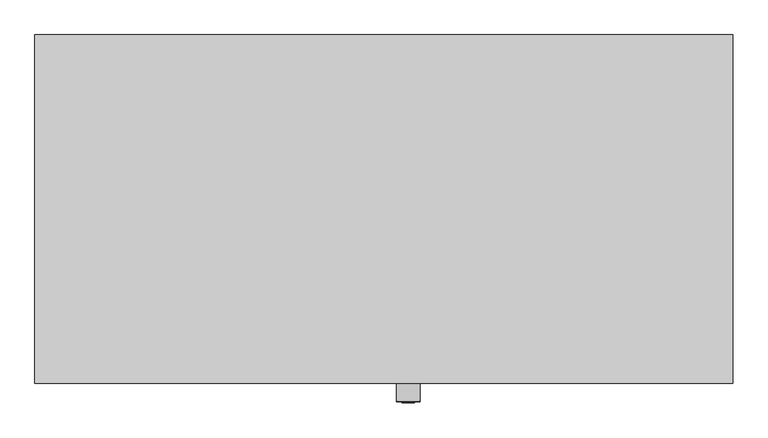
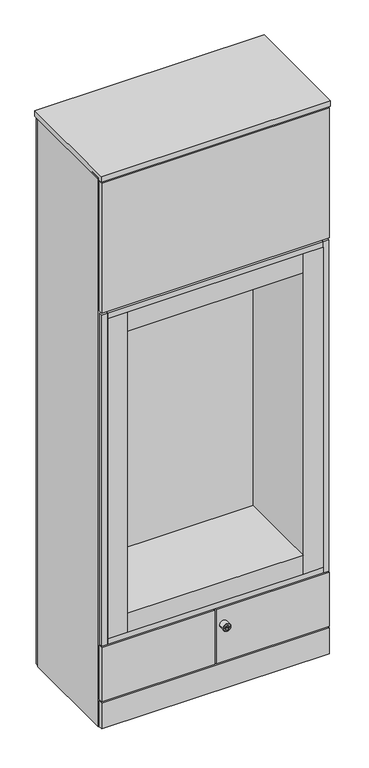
"""IFC4 building model written with IfcOpenShell, lengths in millimetres: furniture geometry, Furniture_Storage_Spacestor_SignatureStoragewall : Snugglestor Single."""

import ifcopenshell
import ifcopenshell.guid

model = None  # the IFC model being written
_history = None  # IfcOwnerHistory: only IFC2X3 demands one
_inside = {}  # id of a spatial element -> (the spatial element, [elements in it])
_under = {}  # id of a project, library or spatial element -> (it, [spatial elements below it])
_declared = {}  # id of a project -> (the project, [libraries it declares])
_typed = {}  # id of a type object -> (the type object, [elements of that type])
_made_of = {}  # id of a material, layer set ... -> (it, [elements and type objects made of it])


def new_model(schema):
    """Start an empty IFC model of exactly this schema.

    Asked for "IFC4X3", IfcOpenShell would pick the latest addendum, in which some entities
    have other attributes; the version numbers below select the first issue.
    IFC2X3 requires an IfcOwnerHistory on every rooted entity: one is made here for all.
    """
    global model, _history
    if schema == "IFC4X3":
        model = ifcopenshell.file(schema_version=(4, 3, 0, 0))
    else:
        model = ifcopenshell.file(schema=schema)
    _inside.clear()
    _under.clear()
    _declared.clear()
    _typed.clear()
    _made_of.clear()
    _history = None
    if model.schema == "IFC2X3":
        org = make("IfcOrganization", Name="unknown")
        user = make(
            "IfcPersonAndOrganization",
            ThePerson=make("IfcPerson", FamilyName="unknown"),
            TheOrganization=org,
        )
        app = make(
            "IfcApplication",
            ApplicationDeveloper=org,
            Version="unknown",
            ApplicationFullName="unknown",
            ApplicationIdentifier="unknown",
        )
        _history = make(
            "IfcOwnerHistory",
            OwningUser=user,
            OwningApplication=app,
            ChangeAction="ADDED",
            CreationDate=0,
        )
    return model


def make(cls, **values):
    """One entity of the class cls with the attributes given. An attribute that is None is left unset."""
    return model.create_entity(
        cls, **{name: value for name, value in values.items() if value is not None}
    )


def rooted(cls, **values):
    """An entity with a GlobalId (a new one), such as an element, a storey or a relation."""
    return make(cls, GlobalId=ifcopenshell.guid.new(), OwnerHistory=_history, **values)


def si_unit(unit_type, name, prefix=None):
    """IfcSIUnit, for example si_unit("LENGTHUNIT", "METRE", prefix="MILLI")."""
    return make("IfcSIUnit", UnitType=unit_type, Prefix=prefix, Name=name)


def assignment(units):
    """IfcUnitAssignment: the units of a project."""
    return None if units is None else make("IfcUnitAssignment", Units=units)


def point(xyz):
    """IfcCartesianPoint."""
    return None if xyz is None else make("IfcCartesianPoint", Coordinates=xyz)


def direction(xyz):
    """IfcDirection."""
    return None if xyz is None else make("IfcDirection", DirectionRatios=xyz)


def frame(location, z_axis=None, x_axis=None):
    """IfcAxis2Placement3D, a coordinate frame: its origin and axes. An axis left out is left unset."""
    return make(
        "IfcAxis2Placement3D",
        Location=point(location),
        Axis=direction(z_axis),
        RefDirection=direction(x_axis),
    )


def origin():
    """The frame at (0, 0, 0) with its axes left unset."""
    return frame((0.0, 0.0, 0.0))


def origin_with_axes():
    """The frame at (0, 0, 0) with the z axis (0, 0, 1) and the x axis (1, 0, 0) written out."""
    return frame((0.0, 0.0, 0.0), z_axis=(0.0, 0.0, 1.0), x_axis=(1.0, 0.0, 0.0))


def place(relative_to, where):
    """IfcLocalPlacement: puts the frame where relative to a parent placement (None: the world)."""
    return make(
        "IfcLocalPlacement", PlacementRelTo=relative_to, RelativePlacement=where
    )


def context(
    kind, dimensions, precision=None, world=None, true_north=None, identifier=None
):
    """IfcGeometricRepresentationContext, for example the 3D "Model" context."""
    return make(
        "IfcGeometricRepresentationContext",
        ContextIdentifier=identifier,
        ContextType=kind,
        CoordinateSpaceDimension=dimensions,
        Precision=precision,
        WorldCoordinateSystem=world,
        TrueNorth=true_north,
    )


def project(units=None, contexts=None):
    """IfcProject with its units and contexts."""
    return rooted(
        "IfcProject",
        Name="project",
        RepresentationContexts=contexts,
        UnitsInContext=assignment(units),
    )


def spatial(cls, under=None, at=None, **own):
    """A site, building, storey or space (cls), placed at a placement, below another one or the project."""
    s = rooted(cls, ObjectPlacement=at, **own)
    if under is not None:
        _under.setdefault(under.id(), (under, []))[1].append(s)
    return s


def polyline(points):
    """IfcPolyline through the points."""
    return make("IfcPolyline", Points=[point(p) for p in points])


def circle_curve(where, radius):
    """IfcCircle in the frame where."""
    return make("IfcCircle", Position=where, Radius=radius)


def ellipse_curve(where, semi_axis1, semi_axis2):
    """IfcEllipse in the frame where."""
    return make(
        "IfcEllipse", Position=where, SemiAxis1=semi_axis1, SemiAxis2=semi_axis2
    )


def trimmed(basis, trim1, trim2, sense, master):
    """IfcTrimmedCurve: the piece of a basis curve between two trims."""
    return make(
        "IfcTrimmedCurve",
        BasisCurve=basis,
        Trim1=trim1,
        Trim2=trim2,
        SenseAgreement=sense,
        MasterRepresentation=master,
    )


def outline(outer, holes=None, kind="AREA"):
    """IfcArbitraryClosedProfileDef: a profile drawn as a closed curve; with holes, ...WithVoids."""
    if holes is None:
        return make("IfcArbitraryClosedProfileDef", ProfileType=kind, OuterCurve=outer)
    return make(
        "IfcArbitraryProfileDefWithVoids",
        ProfileType=kind,
        OuterCurve=outer,
        InnerCurves=holes,
    )


def extrude(swept, where, along, depth):
    """IfcExtrudedAreaSolid: the profile swept, set in the frame where, extruded along a direction by depth."""
    return make(
        "IfcExtrudedAreaSolid",
        SweptArea=swept,
        Position=where,
        ExtrudedDirection=direction(along),
        Depth=depth,
    )


def shape(context_of_items, identifier, shape_type, items):
    """IfcShapeRepresentation: the items that make up one representation, for example the "Body"."""
    return make(
        "IfcShapeRepresentation",
        ContextOfItems=context_of_items,
        RepresentationIdentifier=identifier,
        RepresentationType=shape_type,
        Items=items,
    )


def source(mapping_origin, context_of_items, identifier, shape_type, items):
    """IfcRepresentationMap: a shape defined once, which mapped items show again and again."""
    return make(
        "IfcRepresentationMap",
        MappingOrigin=mapping_origin,
        MappedRepresentation=shape(context_of_items, identifier, shape_type, items),
    )


def transform(
    local_origin,
    x_axis=None,
    y_axis=None,
    z_axis=None,
    scale=None,
    scale2=None,
    scale3=None,
    uniform=True,
):
    """IfcCartesianTransformationOperator3D, or its non-uniform kind. x_axis, y_axis, z_axis: its Axis1, 2, 3."""
    if uniform:
        return make(
            "IfcCartesianTransformationOperator3D",
            Axis1=direction(x_axis),
            Axis2=direction(y_axis),
            LocalOrigin=point(local_origin),
            Scale=scale,
            Axis3=direction(z_axis),
        )
    return make(
        "IfcCartesianTransformationOperator3DnonUniform",
        Axis1=direction(x_axis),
        Axis2=direction(y_axis),
        LocalOrigin=point(local_origin),
        Scale=scale,
        Axis3=direction(z_axis),
        Scale2=scale2,
        Scale3=scale3,
    )


def mapped(mapping_source, mapping_target):
    """IfcMappedItem: shows the shape of a source again, moved by a transform."""
    return make(
        "IfcMappedItem", MappingSource=mapping_source, MappingTarget=mapping_target
    )


def made_of(thing, what):
    """Note that an element or type object is made of a material, layer set ...; save() writes the relation."""
    if what is not None:
        _made_of.setdefault(what.id(), (what, []))[1].append(thing)
    return thing


def element(
    cls,
    number,
    at=None,
    inside=None,
    cuts=None,
    type_object=None,
    material=None,
    context=None,
    identifier="Body",
    shape_type=None,
    held_by="IfcProductDefinitionShape",
    body=None,
    shapes=None,
    **own,
):
    """One element of the class cls, such as IfcWall. Its Tag is "e" and its number.

    at: its placement. inside: the storey or other place that contains it. cuts: it is an
    opening in that element (IfcRelVoidsElement). A single representation is given by context,
    identifier, shape_type and body (its items); several are given by shapes. held_by: the class
    of the entity that holds the representations. save() writes the other relations.
    """
    e = rooted(cls, Tag="e%d" % number, ObjectPlacement=at, **own)
    if body is not None:
        shapes = [shape(context, identifier, shape_type, body)]
    if shapes is not None:
        e.Representation = make(held_by, Representations=shapes)
    if inside is not None:
        _inside.setdefault(inside.id(), (inside, []))[1].append(e)
    if cuts is not None:
        rooted(
            "IfcRelVoidsElement", RelatingBuildingElement=cuts, RelatedOpeningElement=e
        )
    if type_object is not None:
        _typed.setdefault(type_object.id(), (type_object, []))[1].append(e)
    return made_of(e, material)


def aggregate(whole, parts):
    """IfcRelAggregates: a whole, such as a stair, and the parts it consists of."""
    return rooted("IfcRelAggregates", RelatingObject=whole, RelatedObjects=parts)


def save(model, path):
    """Write the relations noted so far, then the file.

    IfcRelAggregates (storeys below a building ...), IfcRelContainedInSpatialStructure (elements
    in a storey), IfcRelDefinesByType, IfcRelAssociatesMaterial and IfcRelDeclares: one each for
    every whole, place, type object, material and project.
    """
    for whole, parts in _under.values():
        aggregate(whole, parts)
    for where, things in _inside.values():
        rooted(
            "IfcRelContainedInSpatialStructure",
            RelatedElements=things,
            RelatingStructure=where,
        )
    for kind, things in _typed.values():
        rooted("IfcRelDefinesByType", RelatedObjects=things, RelatingType=kind)
    for what, things in _made_of.values():
        rooted("IfcRelAssociatesMaterial", RelatedObjects=things, RelatingMaterial=what)
    for by, libraries in _declared.values():
        rooted("IfcRelDeclares", RelatingContext=by, RelatedDefinitions=libraries)
    model.write(path)


def plane_surface(at):
    """IfcPlane: the flat surface through the origin of the frame at, square to its z axis."""
    return make("IfcPlane", Position=at)


def cylinder_surface(at, radius):
    """IfcCylindricalSurface: all points at the distance radius from the z axis of the frame at."""
    return make("IfcCylindricalSurface", Position=at, Radius=radius)


def revolved_surface(curve, axis_point, axis_direction):
    """IfcSurfaceOfRevolution: the curve turned about the line through axis_point along axis_direction."""
    return make(
        "IfcSurfaceOfRevolution",
        SweptCurve=make("IfcArbitraryOpenProfileDef", ProfileType="CURVE", Curve=curve),
        AxisPosition=make("IfcAxis1Placement", Location=point(axis_point), Axis=direction(axis_direction)),
    )


def advanced_brep(points, edges, surfaces, faces):
    """IfcAdvancedBrep: a solid bounded by faces that lie on surfaces and meet in shared edges.

    An edge is (start, end): straight between two places in points (the first is 0);
    or (start, end, curve); or (start, end, curve, False) where it runs against its curve.
    A face is (place in surfaces, loops), or (place, loops, False) where it looks against
    its surface's normal. A loop lists edges by number (the first is 1), with a minus sign
    where the edge is run from its end to its start. The first loop is the outer one.
    """
    corners = [point(p) for p in points]
    vertices = [make("IfcVertexPoint", VertexGeometry=c) for c in corners]
    made = []
    for start, end, *more in edges:
        made.append(
            make(
                "IfcEdgeCurve",
                EdgeStart=vertices[start],
                EdgeEnd=vertices[end],
                EdgeGeometry=more[0] if more else make("IfcPolyline", Points=[corners[start], corners[end]]),
                SameSense=more[1] if len(more) > 1 else True,
            )
        )
    hull = []
    for where, loops, *sense in faces:
        bounds = []
        for j, loop in enumerate(loops):
            ring = [make("IfcOrientedEdge", EdgeElement=made[abs(k) - 1], Orientation=k > 0) for k in loop]
            bounds.append(
                make(
                    "IfcFaceOuterBound" if j == 0 else "IfcFaceBound",
                    Bound=make("IfcEdgeLoop", EdgeList=ring),
                    Orientation=True,
                )
            )
        hull.append(make("IfcAdvancedFace", Bounds=bounds, FaceSurface=surfaces[where], SameSense=sense[0] if sense else True))
    return make("IfcAdvancedBrep", Outer=make("IfcClosedShell", CfsFaces=hull))


def furniture_08b1c1f8(model_context):
    return source(origin(), model_context, "Body", "SolidModel", [
        extrude(outline(polyline([(996.5, 459.0), (3.5, 459.0), (3.5, 477.0), (996.5, 477.0), (996.5, 459.0)])), origin_with_axes(), (0.0, 0.0, 1.0), 2518.0),
        extrude(outline(polyline([(996.5, -18.0), (3.5, -18.0), (3.5, 0.0), (996.5, 0.0), (996.5, -18.0)])), origin_with_axes(), (0.0, 0.0, 1.0), 118.0),
        extrude(outline(polyline([(1000.0, -20.5), (0.0, -20.5), (0.0, 479.5), (1000.0, 479.5), (1000.0, -20.5)])), frame((0.0, 0.0, 2525.0), z_axis=(0.0, 0.0, 1.0), x_axis=(1.0, 0.0, 0.0)), (0.0, 0.0, 1.0), 25.5),
        extrude(outline(polyline([(1000.0, 0.0), (989.0, 0.0), (989.0, 459.0), (1000.0, 459.0), (1000.0, 0.0)])), origin_with_axes(), (0.0, 0.0, 1.0), 2532.5),
        extrude(outline(polyline([(11.0, 0.0), (0.0, 0.0), (0.0, 459.0), (11.0, 459.0), (11.0, 0.0)])), origin_with_axes(), (0.0, 0.0, 1.0), 2532.5),
        extrude(outline(polyline([(996.5, -18.0), (3.5, -18.0), (3.5, 0.0), (996.5, 0.0), (996.5, -18.0)])), frame((0.0, 0.0, 1917.0), z_axis=(0.0, 0.0, 1.0), x_axis=(1.0, 0.0, 0.0)), (0.0, 0.0, 1.0), 601.0),
        extrude(outline(polyline([(989.0, 0.0), (11.0, 0.0), (11.0, 459.0), (989.0, 459.0), (989.0, 0.0)])), frame((0.0, 0.0, 1902.5), z_axis=(0.0, 0.0, 1.0), x_axis=(1.0, 0.0, 0.0)), (0.0, 0.0, 1.0), 22.0),
        extrude(outline(polyline([(970.5, 398.0), (970.5, 361.0), (29.5, 361.0), (29.5, 398.0), (970.5, 398.0)])), frame((0.0, 0.0, 406.5), z_axis=(0.0, 0.0, 1.0), x_axis=(1.0, 0.0, 0.0)), (0.0, 0.0, 1.0), 1476.0),
        extrude(outline(polyline([(970.5, -18.0), (883.5, -18.0), (883.5, 361.0), (970.5, 361.0), (970.5, -18.0)])), frame((0.0, 0.0, 406.5), z_axis=(0.0, 0.0, 1.0), x_axis=(1.0, 0.0, 0.0)), (0.0, 0.0, 1.0), 1476.0),
        extrude(outline(polyline([(116.5, -18.0), (29.5, -18.0), (29.5, 361.0), (116.5, 361.0), (116.5, -18.0)])), frame((0.0, 0.0, 406.5), z_axis=(0.0, 0.0, 1.0), x_axis=(1.0, 0.0, 0.0)), (0.0, 0.0, 1.0), 1476.0),
        extrude(outline(polyline([(883.5, -18.0), (116.5, -18.0), (116.5, 361.0), (883.5, 361.0), (883.5, -18.0)])), frame((0.0, 0.0, 406.5), z_axis=(0.0, 0.0, 1.0), x_axis=(1.0, 0.0, 0.0)), (0.0, 0.0, 1.0), 87.0),
        extrude(outline(polyline([(883.5, -18.0), (116.5, -18.0), (116.5, 361.0), (883.5, 361.0), (883.5, -18.0)])), frame((0.0, 0.0, 1795.5), z_axis=(0.0, 0.0, 1.0), x_axis=(1.0, 0.0, 0.0)), (0.0, 0.0, 1.0), 87.0),
        extrude(outline(polyline([(989.0, 0.0), (11.0, 0.0), (11.0, 459.0), (989.0, 459.0), (989.0, 0.0)])), frame((0.0, 0.0, 110.5), z_axis=(0.0, 0.0, 1.0), x_axis=(1.0, 0.0, 0.0)), (0.0, 0.0, 1.0), 22.0),
        extrude(outline(polyline([(989.0, 0.0), (11.0, 0.0), (11.0, 459.0), (989.0, 459.0), (989.0, 0.0)])), frame((0.0, 0.0, 2510.0), z_axis=(0.0, 0.0, 1.0), x_axis=(1.0, 0.0, 0.0)), (0.0, 0.0, 1.0), 22.0),
        extrude(outline(polyline([(989.0, 0.0), (11.0, 0.0), (11.0, 459.0), (989.0, 459.0), (989.0, 0.0)])), frame((0.0, 0.0, 366.5), z_axis=(0.0, 0.0, 1.0), x_axis=(1.0, 0.0, 0.0)), (0.0, 0.0, 1.0), 22.0),
        extrude(outline(polyline([(970.5, -18.0), (29.5, -18.0), (29.5, 416.0), (970.5, 416.0), (970.5, -18.0)])), frame((0.0, 0.0, 381.5), z_axis=(0.0, 0.0, 1.0), x_axis=(1.0, 0.0, 0.0)), (0.0, 0.0, 1.0), 25.0),
        extrude(outline(polyline([(29.5, -18.0), (4.5, -18.0), (4.5, 416.0), (29.5, 416.0), (29.5, -18.0)])), frame((0.0, 0.0, 381.0), z_axis=(0.0, 0.0, 1.0), x_axis=(1.0, 0.0, 0.0)), (0.0, 0.0, 1.0), 1527.0),
        extrude(outline(polyline([(995.5, -18.0), (970.5, -18.0), (970.5, 416.0), (995.5, 416.0), (995.5, -18.0)])), frame((0.0, 0.0, 381.0), z_axis=(0.0, 0.0, 1.0), x_axis=(1.0, 0.0, 0.0)), (0.0, 0.0, 1.0), 1527.0),
        extrude(outline(polyline([(995.5, 416.0), (4.5, 416.0), (4.5, 434.0), (995.5, 434.0), (995.5, 416.0)])), frame((0.0, 0.0, 381.0), z_axis=(0.0, 0.0, 1.0), x_axis=(1.0, 0.0, 0.0)), (0.0, 0.0, 1.0), 1527.0),
        extrude(outline(polyline([(970.5, -18.0), (29.5, -18.0), (29.5, 416.0), (970.5, 416.0), (970.5, -18.0)])), frame((0.0, 0.0, 1882.5), z_axis=(0.0, 0.0, 1.0), x_axis=(1.0, 0.0, 0.0)), (0.0, 0.0, 1.0), 25.0),
        extrude(outline(polyline([(3.5, -18.0), (3.5, 0.0), (496.5, 0.0), (496.5, -18.0), (3.5, -18.0)])), frame((0.0, 0.0, 125.0), z_axis=(0.0, 0.0, 1.0), x_axis=(1.0, 0.0, 0.0)), (0.0, 0.0, 1.0), 249.0),
        extrude(outline(polyline([(996.5, -18.0), (503.5, -18.0), (503.5, 0.0), (996.5, 0.0), (996.5, -18.0)])), frame((0.0, 0.0, 125.0), z_axis=(0.0, 0.0, 1.0), x_axis=(1.0, 0.0, 0.0)), (0.0, 0.0, 1.0), 249.0),
        advanced_brep(
        [(552.0, -45.3116344, 299.0), (518.0, -45.3116344, 299.0), (518.0, -18.0, 299.0), (552.0, -18.0, 299.0), (535.0, -18.0, 299.0), (543.9747319, -46.3150077, 299.0), (526.0252681, -46.3150077, 299.0), (519.0033734, -46.3150077, 299.0), (550.9966266, -46.3150077, 299.0), (543.9747319, -47.4703043, 299.0), (526.0252681, -47.4703043, 299.0), (539.8245152, -47.4703043, 299.0), (539.8245152, -47.4703043, 297.6366562), (530.1754848, -47.4703043, 297.6366562), (530.1754848, -47.4703043, 299.0), (530.1754848, -47.4703043, 300.3633438), (539.8245152, -47.4703043, 300.3633438), (530.1754848, -27.8604291, 297.6366562), (539.8245152, -27.8604291, 297.6366562), (539.8245152, -27.8604291, 300.3633438), (530.1754848, -27.8604291, 300.3633438)],
        [
            (0, 1, circle_curve(frame((535.0, -45.3116344, 299.0), z_axis=(0.0, 1.0, 0.0), x_axis=(-1.0, 0.0, 0.0)), 17.0)),
            (1, 2),
            (2, 3, circle_curve(frame((535.0, -18.0, 299.0), z_axis=(0.0, -1.0, 0.0), x_axis=(-1.0, 0.0, 0.0)), 17.0)),
            (3, 0),
            (1, 0, circle_curve(frame((535.0, -45.3116344, 299.0), z_axis=(0.0, 1.0, 0.0), x_axis=(-1.0, 0.0, 0.0)), 17.0)),
            (3, 2, circle_curve(frame((535.0, -18.0, 299.0), z_axis=(0.0, -1.0, 0.0), x_axis=(-1.0, 0.0, 0.0)), 17.0)),
            (2, 4),
            (4, 3),
            (5, 6, circle_curve(frame((535.0, -46.3150077, 299.0), z_axis=(0.0, 1.0, 0.0), x_axis=(-1.0, 0.0, 0.0)), 8.9747319)),
            (6, 7),
            (7, 8, circle_curve(frame((535.0, -46.3150077, 299.0), z_axis=(0.0, -1.0, 0.0), x_axis=(-1.0, 0.0, 0.0)), 15.9966266)),
            (8, 5),
            (6, 5, circle_curve(frame((535.0, -46.3150077, 299.0), z_axis=(0.0, 1.0, 0.0), x_axis=(-1.0, 0.0, 0.0)), 8.9747319)),
            (8, 7, circle_curve(frame((535.0, -46.3150077, 299.0), z_axis=(0.0, -1.0, 0.0), x_axis=(-1.0, 0.0, 0.0)), 15.9966266)),
            (0, 8, circle_curve(frame((550.9966266, -45.3116344, 299.0), z_axis=(0.0, 0.0, -1.0), x_axis=(1.0, 0.0, 0.0)), 1.0033734)),
            (7, 1, circle_curve(frame((519.0033734, -45.3116344, 299.0), z_axis=(0.0, 0.0, -1.0), x_axis=(-1.0, 0.0, 0.0)), 1.0033734)),
            (5, 9),
            (9, 10, circle_curve(frame((535.0, -47.4703043, 299.0), z_axis=(0.0, 1.0, 0.0), x_axis=(-1.0, 0.0, 0.0)), 8.9747319)),
            (10, 6),
            (10, 9, circle_curve(frame((535.0, -47.4703043, 299.0), z_axis=(0.0, 1.0, 0.0), x_axis=(-1.0, 0.0, 0.0)), 8.9747319)),
            (9, 11),
            (11, 12),
            (12, 13),
            (13, 14),
            (14, 10),
            (14, 15),
            (15, 16),
            (16, 11),
            (17, 18),
            (18, 19),
            (19, 20),
            (20, 17),
            (17, 13),
            (12, 18),
            (16, 19),
            (15, 20),
        ],
        [
            cylinder_surface(frame((535.0, -2627.0581012, 299.0), z_axis=(0.0, -1.0, 0.0), x_axis=(-1.0, 0.0, 0.0)), 17.0),
            plane_surface(frame((535.0, -18.0, 299.0), z_axis=(0.0, 1.0, 0.0), x_axis=(-1.0, 0.0, 0.0))),
            plane_surface(frame((535.0, -46.3150077, 299.0), z_axis=(0.0, -1.0, 0.0), x_axis=(-1.0, 0.0, 0.0))),
            revolved_surface(trimmed(ellipse_curve(frame((519.0033734, -45.3116344, 299.0), z_axis=(0.0, 0.0, 1.0), x_axis=(-1.0, 0.0, 0.0)), 1.0033734, 1.0033734), [point((518.0, -45.3116344, 299.0))], [point((519.0033734, -46.3150077, 299.0))], True, "CARTESIAN"), (535.0, -2627.0581012, 299.0), (0.0, -1.0, 0.0)),
            cylinder_surface(frame((535.0, -2627.0581012, 299.0), z_axis=(0.0, -1.0, 0.0), x_axis=(-1.0, 0.0, 0.0)), 8.9747319),
            plane_surface(frame((535.0, -47.4703043, 299.0), z_axis=(0.0, -1.0, 0.0), x_axis=(-1.0, 0.0, 0.0))),
            plane_surface(frame((539.4565249, -27.8604291, 297.6366562), z_axis=(0.0, -1.0, 0.0), x_axis=(-1.0, 0.0, 0.0))),
            plane_surface(frame((530.1754848, -49.2046383, 297.6366562), z_axis=(0.0, 0.0, 1.0), x_axis=(0.0, 1.0, 0.0))),
            plane_surface(frame((539.8245152, -49.2046383, 297.6366562), z_axis=(-1.0, 0.0, 0.0), x_axis=(0.0, 1.0, 0.0))),
            plane_surface(frame((539.8245152, -49.2046383, 300.3633438), z_axis=(0.0, 0.0, -1.0), x_axis=(0.0, 1.0, 0.0))),
            plane_surface(frame((530.1754848, -49.2046383, 300.3633438), z_axis=(1.0, 0.0, 0.0), x_axis=(0.0, 1.0, 0.0))),
        ],
        [
            (0, [[1, 2, 3, 4]]),
            (0, [[-2, 5, -4, 6]]),
            (1, [[-3, 7, 8]]),
            (1, [[-6, -8, -7]]),
            (2, [[9, 10, 11, 12]]),
            (2, [[-10, 13, -12, 14]]),
            (3, [[-1, 15, -11, 16]]),
            (3, [[-5, -16, -14, -15]]),
            (4, [[-9, 17, 18, 19]]),
            (4, [[-13, -19, 20, -17]]),
            (5, [[-18, 21, 22, 23, 24, 25]]),
            (5, [[-20, -25, 26, 27, 28, -21]]),
            (6, [[29, 30, 31, 32]]),
            (7, [[-29, 33, -23, 34]]),
            (8, [[-30, -34, -22, -28, 35]]),
            (9, [[-31, -35, -27, 36]]),
            (10, [[-32, -36, -26, -24, -33]]),
        ],
    ),
    ])


if __name__ == "__main__":
    model = new_model("IFC4")
    model_context = context("Model", 3, world=origin())
    ifc_project = project(units=[si_unit("LENGTHUNIT", "METRE", prefix="MILLI")], contexts=[model_context])
    site = spatial("IfcSite", under=ifc_project)
    building = spatial("IfcBuilding", under=site)
    placement = place(None, origin())
    furniture_shape = furniture_08b1c1f8(model_context)
    element("IfcFurniture", 1, ObjectType="Furniture_Storage_Spacestor_SignatureStoragewall : Snugglestor Single", at=placement, inside=building, context=model_context, shape_type="MappedRepresentation", body=[
        mapped(furniture_shape, transform((0.0, 0.0, 0.0), x_axis=(1.0, 0.0, 0.0), y_axis=(0.0, 1.0, 0.0), z_axis=(0.0, 0.0, 1.0))),
    ])
    save(model, "model.ifc")
